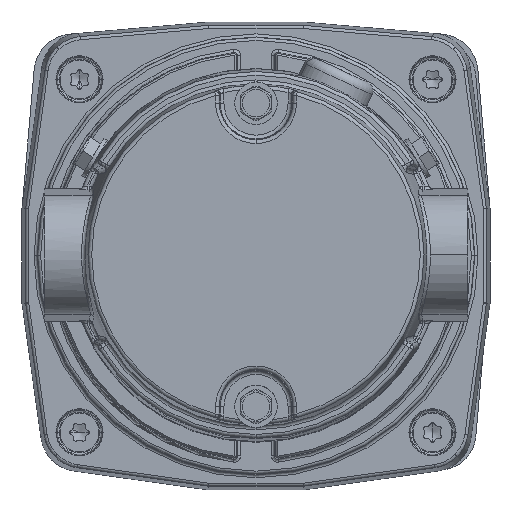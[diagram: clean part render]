
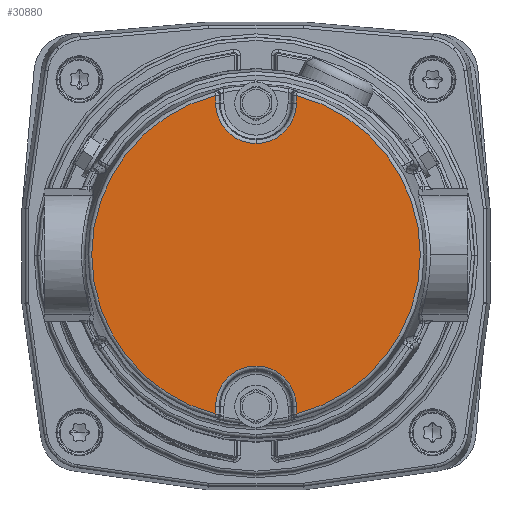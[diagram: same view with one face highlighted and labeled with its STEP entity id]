
A CAD part, top view. The second image highlights one B-rep face of the part: STEP entity #30880.
In plain terms, the highlighted planar face has unit normal (0, 0, 1).
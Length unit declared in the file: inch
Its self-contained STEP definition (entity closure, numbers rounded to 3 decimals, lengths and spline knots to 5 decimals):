
#4980 = VERTEX_POINT ( 'NONE', #34536 ) ;
#5063 = ORIENTED_EDGE ( 'NONE', *, *, #98688, .T. ) ;
#6801 = CARTESIAN_POINT ( 'NONE',  ( -0.32347, 1.27617, 5.695 ) ) ;
#10497 = ORIENTED_EDGE ( 'NONE', *, *, #91035, .T. ) ;
#11748 = DIRECTION ( 'NONE',  ( 0., -1., 0. ) ) ;
#11875 = EDGE_LOOP ( 'NONE', ( #37324, #10497, #36236, #5063, #75672, #14666, #61917, #56343, #92779 ) ) ;
#11924 = DIRECTION ( 'NONE',  ( 0., 0., -1. ) ) ;
#13247 = EDGE_CURVE ( 'NONE', #29762, #26871, #98448, .T. ) ;
#14420 = CARTESIAN_POINT ( 'NONE',  ( 0.32347, 1.27617, 5.695 ) ) ;
#14666 = ORIENTED_EDGE ( 'NONE', *, *, #60261, .T. ) ;
#17405 = DIRECTION ( 'NONE',  ( 0., -1., 0. ) ) ;
#18912 = LINE ( 'NONE', #56105, #42902 ) ;
#19004 = EDGE_CURVE ( 'NONE', #70382, #97776, #49943, .T. ) ;
#19299 = CARTESIAN_POINT ( 'NONE',  ( 0., 0., 5.695 ) ) ;
#21548 = CARTESIAN_POINT ( 'NONE',  ( -1.345, 0., 5.695 ) ) ;
#26235 = VERTEX_POINT ( 'NONE', #31544 ) ;
#26871 = VERTEX_POINT ( 'NONE', #86981 ) ;
#29762 = VERTEX_POINT ( 'NONE', #6801 ) ;
#30880 = ADVANCED_FACE ( 'NONE', ( #78368 ), #67308, .F. ) ;
#31544 = CARTESIAN_POINT ( 'NONE',  ( -0.32347, -1.215, 5.695 ) ) ;
#33626 = LINE ( 'NONE', #41891, #94500 ) ;
#33705 = DIRECTION ( 'NONE',  ( 0., -1., 0. ) ) ;
#34208 = DIRECTION ( 'NONE',  ( 0., -1., 0. ) ) ;
#34536 = CARTESIAN_POINT ( 'NONE',  ( 0.32347, -1.27617, 5.695 ) ) ;
#34800 = AXIS2_PLACEMENT_3D ( 'NONE', #66626, #11924, #65321 ) ;
#34880 = EDGE_CURVE ( 'NONE', #68387, #4980, #18912, .T. ) ;
#36236 = ORIENTED_EDGE ( 'NONE', *, *, #43556, .T. ) ;
#36417 = CIRCLE ( 'NONE', #52970, 1.31653 ) ;
#36818 = EDGE_CURVE ( 'NONE', #26871, #26235, #55025, .T. ) ;
#37324 = ORIENTED_EDGE ( 'NONE', *, *, #34880, .T. ) ;
#38258 = VECTOR ( 'NONE', #41309, 39.37008 ) ;
#39926 = VECTOR ( 'NONE', #74717, 39.37008 ) ;
#40320 = CARTESIAN_POINT ( 'NONE',  ( -0.32347, 0., 5.695 ) ) ;
#41309 = DIRECTION ( 'NONE',  ( 0., 1., 0. ) ) ;
#41548 = CARTESIAN_POINT ( 'NONE',  ( 0.32347, 1.215, 5.695 ) ) ;
#41891 = CARTESIAN_POINT ( 'NONE',  ( 0.32347, 0., 5.695 ) ) ;
#42507 = DIRECTION ( 'NONE',  ( 0., 0., -1. ) ) ;
#42902 = VECTOR ( 'NONE', #17405, 39.37008 ) ;
#43556 = EDGE_CURVE ( 'NONE', #46493, #48122, #33626, .T. ) ;
#46493 = VERTEX_POINT ( 'NONE', #14420 ) ;
#48122 = VERTEX_POINT ( 'NONE', #41548 ) ;
#48866 = AXIS2_PLACEMENT_3D ( 'NONE', #19299, #65031, #33705 ) ;
#49766 = DIRECTION ( 'NONE',  ( 0., 0., -1. ) ) ;
#49943 = CIRCLE ( 'NONE', #54581, 0.32347 ) ;
#50164 = DIRECTION ( 'NONE',  ( 0., -1., 0. ) ) ;
#52970 = AXIS2_PLACEMENT_3D ( 'NONE', #88545, #73512, #11748 ) ;
#54581 = AXIS2_PLACEMENT_3D ( 'NONE', #95431, #49766, #88151 ) ;
#55025 = LINE ( 'NONE', #40320, #38258 ) ;
#55612 = CARTESIAN_POINT ( 'NONE',  ( -0.32347, 1.215, 5.695 ) ) ;
#56105 = CARTESIAN_POINT ( 'NONE',  ( 0.32347, 0., 5.695 ) ) ;
#56343 = ORIENTED_EDGE ( 'NONE', *, *, #36818, .T. ) ;
#59944 = DIRECTION ( 'NONE',  ( 0., -1., 0. ) ) ;
#60261 = EDGE_CURVE ( 'NONE', #97776, #29762, #93638, .T. ) ;
#60262 = AXIS2_PLACEMENT_3D ( 'NONE', #21548, #97959, #59944 ) ;
#61917 = ORIENTED_EDGE ( 'NONE', *, *, #13247, .T. ) ;
#62559 = EDGE_CURVE ( 'NONE', #26235, #68387, #74875, .T. ) ;
#65031 = DIRECTION ( 'NONE',  ( 0., 0., 1. ) ) ;
#65321 = DIRECTION ( 'NONE',  ( 0., -1., 0. ) ) ;
#66626 = CARTESIAN_POINT ( 'NONE',  ( 0., 1.215, 5.695 ) ) ;
#67285 = CARTESIAN_POINT ( 'NONE',  ( 0., 0.89153, 5.695 ) ) ;
#67308 = PLANE ( 'NONE',  #60262 ) ;
#68387 = VERTEX_POINT ( 'NONE', #75561 ) ;
#70382 = VERTEX_POINT ( 'NONE', #67285 ) ;
#73512 = DIRECTION ( 'NONE',  ( 0., 0., 1. ) ) ;
#74717 = DIRECTION ( 'NONE',  ( 0., 1., 0. ) ) ;
#74875 = CIRCLE ( 'NONE', #81838, 0.32347 ) ;
#75561 = CARTESIAN_POINT ( 'NONE',  ( 0.32347, -1.215, 5.695 ) ) ;
#75672 = ORIENTED_EDGE ( 'NONE', *, *, #19004, .T. ) ;
#78368 = FACE_OUTER_BOUND ( 'NONE', #11875, .T. ) ;
#80214 = CARTESIAN_POINT ( 'NONE',  ( 0., -1.215, 5.695 ) ) ;
#81838 = AXIS2_PLACEMENT_3D ( 'NONE', #80214, #42507, #50164 ) ;
#83295 = CIRCLE ( 'NONE', #34800, 0.32347 ) ;
#86981 = CARTESIAN_POINT ( 'NONE',  ( -0.32347, -1.27617, 5.695 ) ) ;
#88151 = DIRECTION ( 'NONE',  ( 0., -1., 0. ) ) ;
#88545 = CARTESIAN_POINT ( 'NONE',  ( 0., 0., 5.695 ) ) ;
#91035 = EDGE_CURVE ( 'NONE', #4980, #46493, #36417, .T. ) ;
#92779 = ORIENTED_EDGE ( 'NONE', *, *, #62559, .T. ) ;
#93638 = LINE ( 'NONE', #96056, #39926 ) ;
#94500 = VECTOR ( 'NONE', #34208, 39.37008 ) ;
#95431 = CARTESIAN_POINT ( 'NONE',  ( 0., 1.215, 5.695 ) ) ;
#96056 = CARTESIAN_POINT ( 'NONE',  ( -0.32347, 0., 5.695 ) ) ;
#97776 = VERTEX_POINT ( 'NONE', #55612 ) ;
#97959 = DIRECTION ( 'NONE',  ( 0., 0., -1. ) ) ;
#98448 = CIRCLE ( 'NONE', #48866, 1.31653 ) ;
#98688 = EDGE_CURVE ( 'NONE', #48122, #70382, #83295, .T. ) ;
